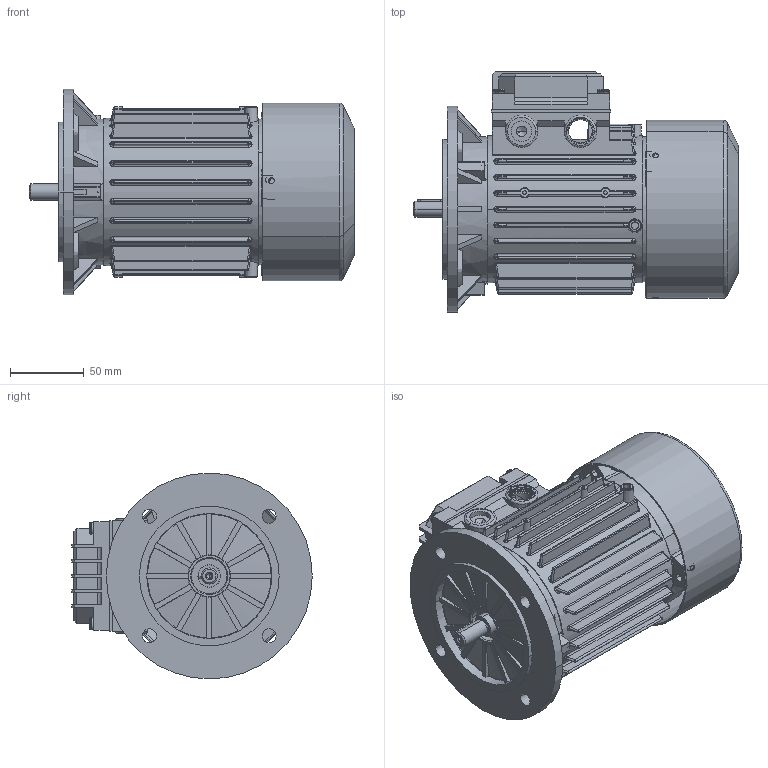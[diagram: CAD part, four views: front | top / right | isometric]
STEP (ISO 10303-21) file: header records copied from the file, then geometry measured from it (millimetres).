
FILE_DESCRIPTION (( 'STEP AP214' ), '1' );
FILE_NAME ('M24BB0010.STEP', '2018-10-25T10:39:10', ( '' ), ( '' ), 'SwSTEP 2.0', 'SolidWorks 2018', '' );
FILE_SCHEMA (( 'AUTOMOTIVE_DESIGN' ));
Length unit declared in the file: millimetre
Products named in the file (11): Coperchio per Scatola Singola 63-71-80 con viti; Guarnizione Scatola Singola 63-71-80; Vite per coperchio morsettiera; Coperchio per Scatola Singola 63-71-80 - DBAN0095; Chiavetta 63; Cuffia SM 63 - DAA40098; Scudo Lato Comando B3 BM 63 - DAAD0194; Scudo a flangia B5 Fi 140 BM 63 - DAAA0094; Albero SM 63 - DAD10095; Carcassa 63 B5; M24BB0010
Assembly tree (13 placements, depth 3):
  M24BB0010
    Carcassa 63 B5
    Albero SM 63 - DAD10095
    Scudo a flangia B5 Fi 140 BM 63 - DAAA0094
    Scudo Lato Comando B3 BM 63 - DAAD0194
    Cuffia SM 63 - DAA40098
    Chiavetta 63
    Coperchio per Scatola Singola 63-71-80 con viti
      Coperchio per Scatola Singola 63-71-80 - DBAN0095
      Vite per coperchio morsettiera  x4
      Guarnizione Scatola Singola 63-71-80
Bounding box: 221 x 163.5 x 140 mm (x, y, z)
Volume: 512084.1 mm3; surface area: 324382.8 mm2
Topology: 18 solids, 18 shells, 2874 faces, 7810 edges, 4938 vertices
Faces by surface type: plane 1086, cylinder 853, bspline 325, torus 289, cone 223, sphere 98
Entity records: 104941 total; most frequent: CARTESIAN_POINT 39930, ORIENTED_EDGE 14572, DIRECTION 12072, EDGE_CURVE 7286, VERTEX_POINT 4686, AXIS2_PLACEMENT_3D 4558, LINE 2956, VECTOR 2956
